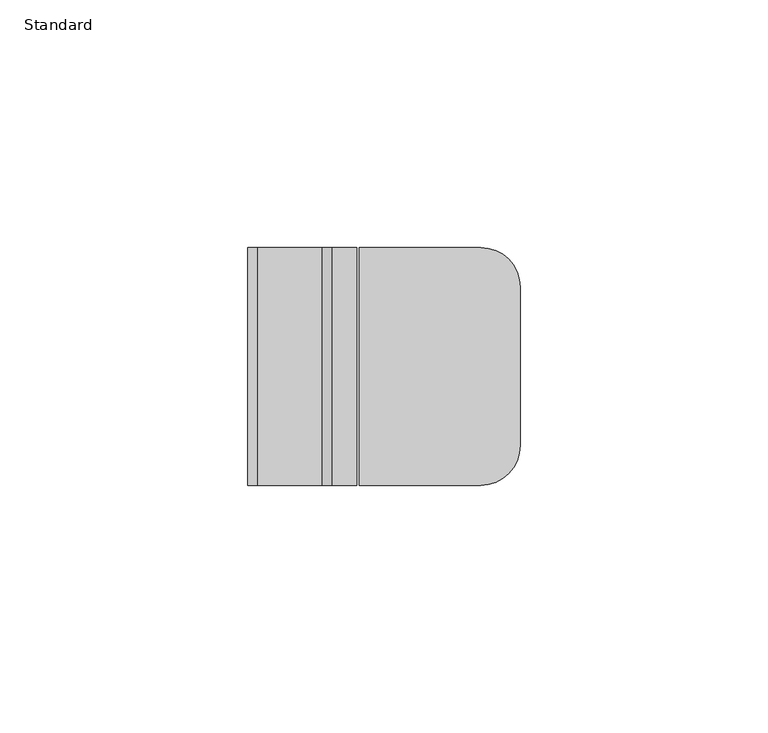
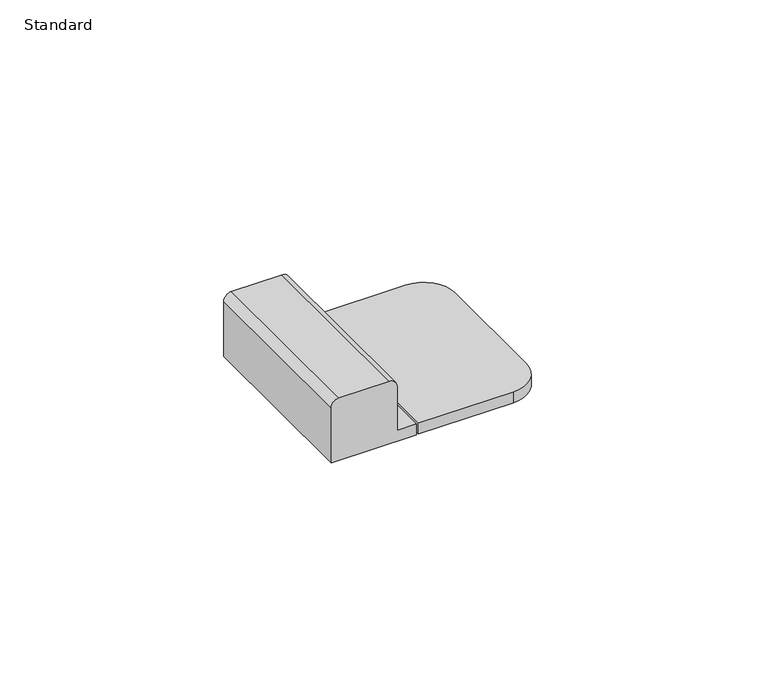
"""IFC4 building model written with IfcOpenShell, lengths in millimetres: furniture geometry, X_Partition-Bumper-Duracube-Concealed Fix : Standard."""

import ifcopenshell
import ifcopenshell.guid

model = None  # the IFC model being written
_history = None  # IfcOwnerHistory: only IFC2X3 demands one
_inside = {}  # id of a spatial element -> (the spatial element, [elements in it])
_under = {}  # id of a project, library or spatial element -> (it, [spatial elements below it])
_declared = {}  # id of a project -> (the project, [libraries it declares])
_typed = {}  # id of a type object -> (the type object, [elements of that type])
_made_of = {}  # id of a material, layer set ... -> (it, [elements and type objects made of it])


def new_model(schema):
    """Start an empty IFC model of exactly this schema.

    Asked for "IFC4X3", IfcOpenShell would pick the latest addendum, in which some entities
    have other attributes; the version numbers below select the first issue.
    IFC2X3 requires an IfcOwnerHistory on every rooted entity: one is made here for all.
    """
    global model, _history
    if schema == "IFC4X3":
        model = ifcopenshell.file(schema_version=(4, 3, 0, 0))
    else:
        model = ifcopenshell.file(schema=schema)
    _inside.clear()
    _under.clear()
    _declared.clear()
    _typed.clear()
    _made_of.clear()
    _history = None
    if model.schema == "IFC2X3":
        org = make("IfcOrganization", Name="unknown")
        user = make(
            "IfcPersonAndOrganization",
            ThePerson=make("IfcPerson", FamilyName="unknown"),
            TheOrganization=org,
        )
        app = make(
            "IfcApplication",
            ApplicationDeveloper=org,
            Version="unknown",
            ApplicationFullName="unknown",
            ApplicationIdentifier="unknown",
        )
        _history = make(
            "IfcOwnerHistory",
            OwningUser=user,
            OwningApplication=app,
            ChangeAction="ADDED",
            CreationDate=0,
        )
    return model


def make(cls, **values):
    """One entity of the class cls with the attributes given. An attribute that is None is left unset."""
    return model.create_entity(
        cls, **{name: value for name, value in values.items() if value is not None}
    )


def rooted(cls, **values):
    """An entity with a GlobalId (a new one), such as an element, a storey or a relation."""
    return make(cls, GlobalId=ifcopenshell.guid.new(), OwnerHistory=_history, **values)


def si_unit(unit_type, name, prefix=None):
    """IfcSIUnit, for example si_unit("LENGTHUNIT", "METRE", prefix="MILLI")."""
    return make("IfcSIUnit", UnitType=unit_type, Prefix=prefix, Name=name)


def assignment(units):
    """IfcUnitAssignment: the units of a project."""
    return None if units is None else make("IfcUnitAssignment", Units=units)


def point(xyz):
    """IfcCartesianPoint."""
    return None if xyz is None else make("IfcCartesianPoint", Coordinates=xyz)


def direction(xyz):
    """IfcDirection."""
    return None if xyz is None else make("IfcDirection", DirectionRatios=xyz)


def frame(location, z_axis=None, x_axis=None):
    """IfcAxis2Placement3D, a coordinate frame: its origin and axes. An axis left out is left unset."""
    return make(
        "IfcAxis2Placement3D",
        Location=point(location),
        Axis=direction(z_axis),
        RefDirection=direction(x_axis),
    )


def frame_2d(location, x_axis=None):
    """IfcAxis2Placement2D, a coordinate frame in the plane: its origin and x axis."""
    return make(
        "IfcAxis2Placement2D", Location=point(location), RefDirection=direction(x_axis)
    )


def origin():
    """The frame at (0, 0, 0) with its axes left unset."""
    return frame((0.0, 0.0, 0.0))


def origin_with_axes():
    """The frame at (0, 0, 0) with the z axis (0, 0, 1) and the x axis (1, 0, 0) written out."""
    return frame((0.0, 0.0, 0.0), z_axis=(0.0, 0.0, 1.0), x_axis=(1.0, 0.0, 0.0))


def place(relative_to, where):
    """IfcLocalPlacement: puts the frame where relative to a parent placement (None: the world)."""
    return make(
        "IfcLocalPlacement", PlacementRelTo=relative_to, RelativePlacement=where
    )


def context(
    kind, dimensions, precision=None, world=None, true_north=None, identifier=None
):
    """IfcGeometricRepresentationContext, for example the 3D "Model" context."""
    return make(
        "IfcGeometricRepresentationContext",
        ContextIdentifier=identifier,
        ContextType=kind,
        CoordinateSpaceDimension=dimensions,
        Precision=precision,
        WorldCoordinateSystem=world,
        TrueNorth=true_north,
    )


def project(units=None, contexts=None):
    """IfcProject with its units and contexts."""
    return rooted(
        "IfcProject",
        Name="project",
        RepresentationContexts=contexts,
        UnitsInContext=assignment(units),
    )


def spatial(cls, under=None, at=None, **own):
    """A site, building, storey or space (cls), placed at a placement, below another one or the project."""
    s = rooted(cls, ObjectPlacement=at, **own)
    if under is not None:
        _under.setdefault(under.id(), (under, []))[1].append(s)
    return s


def polyline(points):
    """IfcPolyline through the points."""
    return make("IfcPolyline", Points=[point(p) for p in points])


def circle_curve(where, radius):
    """IfcCircle in the frame where."""
    return make("IfcCircle", Position=where, Radius=radius)


def trimmed(basis, trim1, trim2, sense, master):
    """IfcTrimmedCurve: the piece of a basis curve between two trims."""
    return make(
        "IfcTrimmedCurve",
        BasisCurve=basis,
        Trim1=trim1,
        Trim2=trim2,
        SenseAgreement=sense,
        MasterRepresentation=master,
    )


def segment(curve, same_sense, transition):
    """IfcCompositeCurveSegment."""
    return make(
        "IfcCompositeCurveSegment",
        Transition=transition,
        SameSense=same_sense,
        ParentCurve=curve,
    )


def composite_curve(segments, self_intersect=None):
    """IfcCompositeCurve: segments joined end to end."""
    return make("IfcCompositeCurve", Segments=segments, SelfIntersect=self_intersect)


def outline(outer, holes=None, kind="AREA"):
    """IfcArbitraryClosedProfileDef: a profile drawn as a closed curve; with holes, ...WithVoids."""
    if holes is None:
        return make("IfcArbitraryClosedProfileDef", ProfileType=kind, OuterCurve=outer)
    return make(
        "IfcArbitraryProfileDefWithVoids",
        ProfileType=kind,
        OuterCurve=outer,
        InnerCurves=holes,
    )


def extrude(swept, where, along, depth):
    """IfcExtrudedAreaSolid: the profile swept, set in the frame where, extruded along a direction by depth."""
    return make(
        "IfcExtrudedAreaSolid",
        SweptArea=swept,
        Position=where,
        ExtrudedDirection=direction(along),
        Depth=depth,
    )


def shape(context_of_items, identifier, shape_type, items):
    """IfcShapeRepresentation: the items that make up one representation, for example the "Body"."""
    return make(
        "IfcShapeRepresentation",
        ContextOfItems=context_of_items,
        RepresentationIdentifier=identifier,
        RepresentationType=shape_type,
        Items=items,
    )


def source(mapping_origin, context_of_items, identifier, shape_type, items):
    """IfcRepresentationMap: a shape defined once, which mapped items show again and again."""
    return make(
        "IfcRepresentationMap",
        MappingOrigin=mapping_origin,
        MappedRepresentation=shape(context_of_items, identifier, shape_type, items),
    )


def transform(
    local_origin,
    x_axis=None,
    y_axis=None,
    z_axis=None,
    scale=None,
    scale2=None,
    scale3=None,
    uniform=True,
):
    """IfcCartesianTransformationOperator3D, or its non-uniform kind. x_axis, y_axis, z_axis: its Axis1, 2, 3."""
    if uniform:
        return make(
            "IfcCartesianTransformationOperator3D",
            Axis1=direction(x_axis),
            Axis2=direction(y_axis),
            LocalOrigin=point(local_origin),
            Scale=scale,
            Axis3=direction(z_axis),
        )
    return make(
        "IfcCartesianTransformationOperator3DnonUniform",
        Axis1=direction(x_axis),
        Axis2=direction(y_axis),
        LocalOrigin=point(local_origin),
        Scale=scale,
        Axis3=direction(z_axis),
        Scale2=scale2,
        Scale3=scale3,
    )


def mapped(mapping_source, mapping_target):
    """IfcMappedItem: shows the shape of a source again, moved by a transform."""
    return make(
        "IfcMappedItem", MappingSource=mapping_source, MappingTarget=mapping_target
    )


def made_of(thing, what):
    """Note that an element or type object is made of a material, layer set ...; save() writes the relation."""
    if what is not None:
        _made_of.setdefault(what.id(), (what, []))[1].append(thing)
    return thing


def element(
    cls,
    number,
    at=None,
    inside=None,
    cuts=None,
    type_object=None,
    material=None,
    context=None,
    identifier="Body",
    shape_type=None,
    held_by="IfcProductDefinitionShape",
    body=None,
    shapes=None,
    **own,
):
    """One element of the class cls, such as IfcWall. Its Tag is "e" and its number.

    at: its placement. inside: the storey or other place that contains it. cuts: it is an
    opening in that element (IfcRelVoidsElement). A single representation is given by context,
    identifier, shape_type and body (its items); several are given by shapes. held_by: the class
    of the entity that holds the representations. save() writes the other relations.
    """
    e = rooted(cls, Tag="e%d" % number, ObjectPlacement=at, **own)
    if body is not None:
        shapes = [shape(context, identifier, shape_type, body)]
    if shapes is not None:
        e.Representation = make(held_by, Representations=shapes)
    if inside is not None:
        _inside.setdefault(inside.id(), (inside, []))[1].append(e)
    if cuts is not None:
        rooted(
            "IfcRelVoidsElement", RelatingBuildingElement=cuts, RelatedOpeningElement=e
        )
    if type_object is not None:
        _typed.setdefault(type_object.id(), (type_object, []))[1].append(e)
    return made_of(e, material)


def aggregate(whole, parts):
    """IfcRelAggregates: a whole, such as a stair, and the parts it consists of."""
    return rooted("IfcRelAggregates", RelatingObject=whole, RelatedObjects=parts)


def save(model, path):
    """Write the relations noted so far, then the file.

    IfcRelAggregates (storeys below a building ...), IfcRelContainedInSpatialStructure (elements
    in a storey), IfcRelDefinesByType, IfcRelAssociatesMaterial and IfcRelDeclares: one each for
    every whole, place, type object, material and project.
    """
    for whole, parts in _under.values():
        aggregate(whole, parts)
    for where, things in _inside.values():
        rooted(
            "IfcRelContainedInSpatialStructure",
            RelatedElements=things,
            RelatingStructure=where,
        )
    for kind, things in _typed.values():
        rooted("IfcRelDefinesByType", RelatedObjects=things, RelatingType=kind)
    for what, things in _made_of.values():
        rooted("IfcRelAssociatesMaterial", RelatedObjects=things, RelatingMaterial=what)
    for by, libraries in _declared.values():
        rooted("IfcRelDeclares", RelatingContext=by, RelatedDefinitions=libraries)
    model.write(path)


def standard_4ddd5521(model_context):
    return source(origin(), model_context, "Body", "SweptSolid", [
        extrude(outline(composite_curve([segment(polyline([(-5.0, -24.0), (-5.0, 24.0), (19.5, 24.0)]), True, "CONTINUOUS"), segment(trimmed(circle_curve(frame_2d((19.5, 16.0)), 8.0), [point((19.5, 24.0))], [point((27.5, 16.0))], False, "CARTESIAN"), True, "CONTINUOUS"), segment(polyline([(27.5, 16.0), (27.5, -16.0)]), True, "CONTINUOUS"), segment(trimmed(circle_curve(frame_2d((19.5, -16.0)), 8.0), [point((27.5, -16.0))], [point((19.5, -24.0))], False, "CARTESIAN"), True, "CONTINUOUS"), segment(polyline([(19.5, -24.0), (-5.0, -24.0)]), True, "CONTINUOUS")], self_intersect=False)), origin_with_axes(), (0.0, 0.0, 1.0), 3.0),
        extrude(outline(composite_curve([segment(polyline([(0.0, -5.5), (3.0, -5.5), (3.0, -10.5), (15.0, -10.5)]), True, "CONTINUOUS"), segment(trimmed(circle_curve(frame_2d((15.0, -12.5)), 2.0), [point((15.0, -10.5))], [point((17.0, -12.5))], False, "CARTESIAN"), True, "CONTINUOUS"), segment(polyline([(17.0, -12.5), (17.0, -25.5)]), True, "CONTINUOUS"), segment(trimmed(circle_curve(frame_2d((15.0, -25.5)), 2.0), [point((17.0, -25.5))], [point((15.0, -27.5))], False, "CARTESIAN"), True, "CONTINUOUS"), segment(polyline([(15.0, -27.5), (0.0, -27.5), (0.0, -5.5)]), True, "CONTINUOUS")], self_intersect=False)), frame((0.0, -24.0, 0.0), z_axis=(0.0, 1.0, 0.0), x_axis=(0.0, 0.0, 1.0)), (0.0, 0.0, 1.0), 48.0),
    ])


if __name__ == "__main__":
    model = new_model("IFC4")
    model_context = context("Model", 3, world=origin())
    ifc_project = project(units=[si_unit("LENGTHUNIT", "METRE", prefix="MILLI")], contexts=[model_context])
    site = spatial("IfcSite", under=ifc_project)
    building = spatial("IfcBuilding", under=site)
    placement = place(None, origin())
    standard_shape = standard_4ddd5521(model_context)
    element("IfcFurniture", 1, ObjectType="X_Partition-Bumper-Duracube-Concealed Fix : Standard", at=placement, inside=building, context=model_context, shape_type="MappedRepresentation", body=[
        mapped(standard_shape, transform((0.0, 0.0, 0.0), x_axis=(1.0, 0.0, 0.0), y_axis=(0.0, 1.0, 0.0), z_axis=(0.0, 0.0, 1.0))),
    ])
    save(model, "model.ifc")
